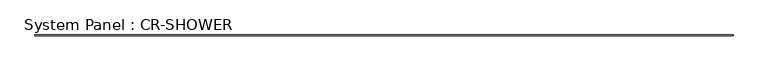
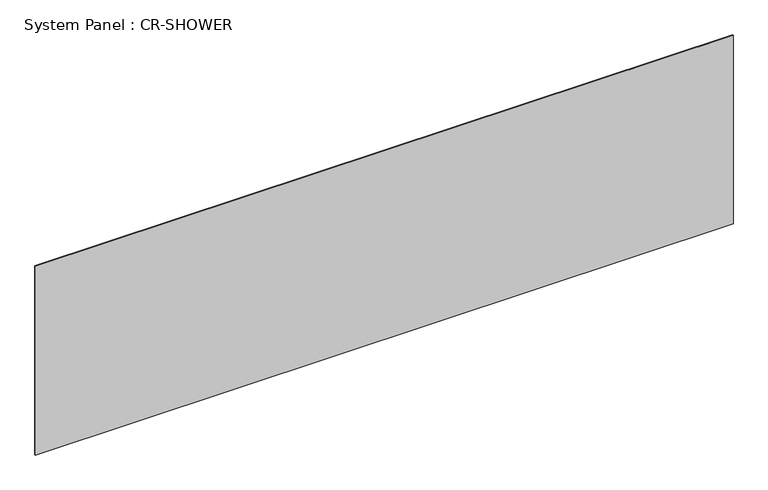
"""IFC4 building model written with IfcOpenShell, lengths in millimetres: plate geometry, System Panel : CR-SHOWER."""

from ifc_helpers import new_model, si_unit, origin, origin_with_axes, place, context, project, spatial, polyline, outline, extrude, source, transform, mapped, element, save


def system_panel_cr_shower_94f7a9c8(model_context):
    return source(origin(), model_context, "Body", "SweptSolid", [
        extrude(outline(polyline([(5860.0, -0.05), (-5860.0, -0.05), (-5860.0, 12.45), (5860.0, 12.45), (5860.0, -0.05)])), origin_with_axes(), (0.0, 0.0, 1.0), 3350.0),
    ])


if __name__ == "__main__":
    model = new_model("IFC4")
    model_context = context("Model", 3, world=origin())
    ifc_project = project(units=[si_unit("LENGTHUNIT", "METRE", prefix="MILLI")], contexts=[model_context])
    site = spatial("IfcSite", under=ifc_project)
    building = spatial("IfcBuilding", under=site)
    placement = place(None, origin())
    system_panel_cr_shower_shape = system_panel_cr_shower_94f7a9c8(model_context)
    element("IfcPlate", 1, ObjectType="System Panel : CR-SHOWER", at=placement, inside=building, context=model_context, shape_type="MappedRepresentation", body=[
        mapped(system_panel_cr_shower_shape, transform((0.0, 0.0, 0.0), x_axis=(1.0, 0.0, 0.0), y_axis=(0.0, 1.0, 0.0), z_axis=(0.0, 0.0, 1.0))),
    ])
    save(model, "model.ifc")
